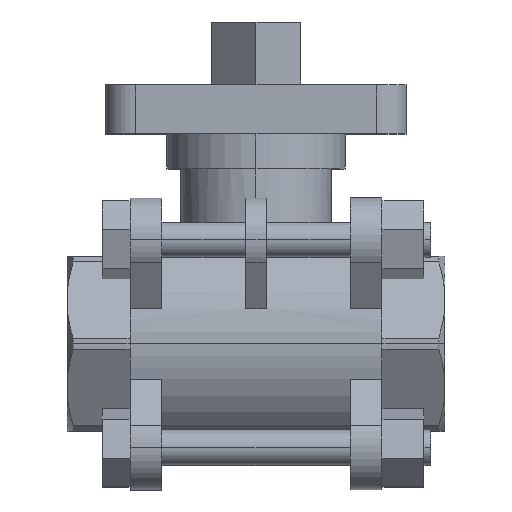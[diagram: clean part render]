
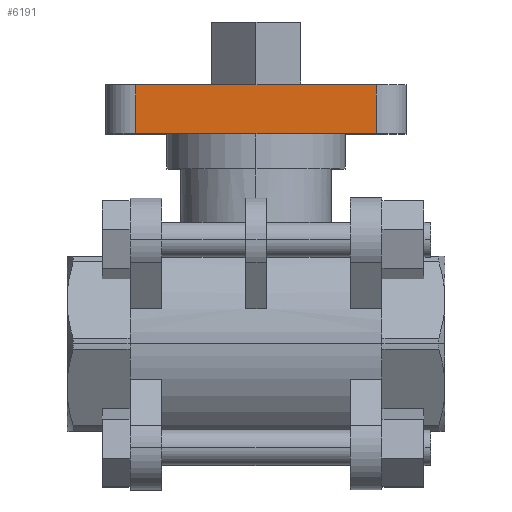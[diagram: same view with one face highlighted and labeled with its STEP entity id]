
A CAD part, top view. The second image highlights one B-rep face of the part: STEP entity #6191.
In plain terms, the highlighted planar face has unit normal (0, 0, 1).
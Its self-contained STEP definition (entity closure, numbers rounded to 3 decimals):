
#195 = EDGE_CURVE ( 'NONE', #292, #5122, #2518, .T. ) ;
#289 = ORIENTED_EDGE ( 'NONE', *, *, #4236, .T. ) ;
#292 = VERTEX_POINT ( 'NONE', #3936 ) ;
#608 = EDGE_CURVE ( 'NONE', #1854, #292, #5774, .T. ) ;
#689 = ORIENTED_EDGE ( 'NONE', *, *, #3600, .T. ) ;
#726 = VERTEX_POINT ( 'NONE', #2418 ) ;
#863 = LINE ( 'NONE', #5802, #3822 ) ;
#1068 = CARTESIAN_POINT ( 'NONE',  ( -17.2, 30., 21.5 ) ) ;
#1854 = VERTEX_POINT ( 'NONE', #1068 ) ;
#1950 = DIRECTION ( 'NONE',  ( 0., 0., 1. ) ) ;
#2113 = CARTESIAN_POINT ( 'NONE',  ( 17.2, -125.563, 21.5 ) ) ;
#2418 = CARTESIAN_POINT ( 'NONE',  ( 17.2, 30., 21.5 ) ) ;
#2503 = DIRECTION ( 'NONE',  ( 1., 0., 0. ) ) ;
#2518 = LINE ( 'NONE', #4121, #3985 ) ;
#2670 = DIRECTION ( 'NONE',  ( 0., 1., 0. ) ) ;
#2692 = VECTOR ( 'NONE', #5293, 1000. ) ;
#2791 = VECTOR ( 'NONE', #2670, 1000. ) ;
#2952 = LINE ( 'NONE', #2113, #2791 ) ;
#3597 = PLANE ( 'NONE',  #5978 ) ;
#3600 = EDGE_CURVE ( 'NONE', #1854, #726, #863, .T. ) ;
#3822 = VECTOR ( 'NONE', #2503, 1000. ) ;
#3936 = CARTESIAN_POINT ( 'NONE',  ( -17.2, 37., 21.5 ) ) ;
#3985 = VECTOR ( 'NONE', #6881, 1000. ) ;
#4121 = CARTESIAN_POINT ( 'NONE',  ( -17.2, 37., 21.5 ) ) ;
#4198 = CARTESIAN_POINT ( 'NONE',  ( -17.2, -125.563, 21.5 ) ) ;
#4236 = EDGE_CURVE ( 'NONE', #726, #5122, #2952, .T. ) ;
#4374 = ORIENTED_EDGE ( 'NONE', *, *, #608, .F. ) ;
#4801 = EDGE_LOOP ( 'NONE', ( #689, #289, #6225, #4374 ) ) ;
#5122 = VERTEX_POINT ( 'NONE', #7086 ) ;
#5293 = DIRECTION ( 'NONE',  ( 0., 1., 0. ) ) ;
#5774 = LINE ( 'NONE', #4198, #2692 ) ;
#5802 = CARTESIAN_POINT ( 'NONE',  ( -17.2, 30., 21.5 ) ) ;
#5812 = DIRECTION ( 'NONE',  ( 1., 0., 0. ) ) ;
#5978 = AXIS2_PLACEMENT_3D ( 'NONE', #6337, #1950, #5812 ) ;
#6191 = ADVANCED_FACE ( 'NONE', ( #6734 ), #3597, .T. ) ;
#6225 = ORIENTED_EDGE ( 'NONE', *, *, #195, .F. ) ;
#6337 = CARTESIAN_POINT ( 'NONE',  ( -17.2, -125.563, 21.5 ) ) ;
#6734 = FACE_OUTER_BOUND ( 'NONE', #4801, .T. ) ;
#6881 = DIRECTION ( 'NONE',  ( 1., 0., 0. ) ) ;
#7086 = CARTESIAN_POINT ( 'NONE',  ( 17.2, 37., 21.5 ) ) ;
